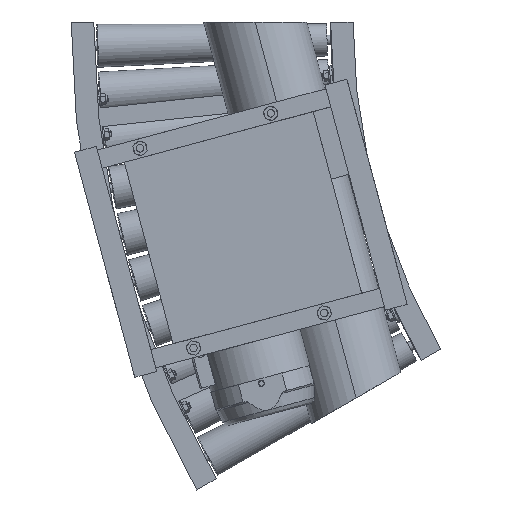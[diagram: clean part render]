
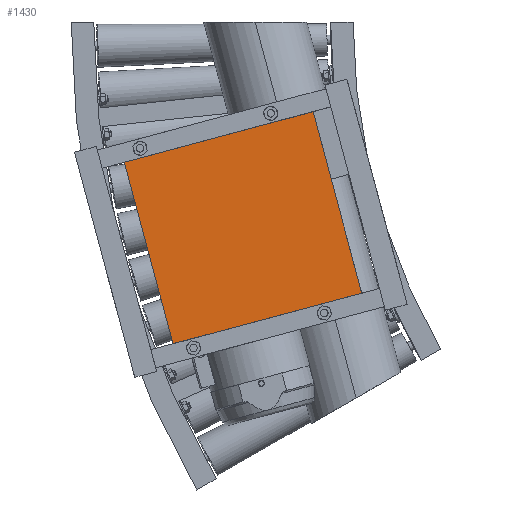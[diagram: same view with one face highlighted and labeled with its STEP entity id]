
A CAD part, front view. The second image highlights one B-rep face of the part: STEP entity #1430.
In plain terms, the highlighted planar face has unit normal (0, -1, 0).
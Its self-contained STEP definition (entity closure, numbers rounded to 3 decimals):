
#1430=ADVANCED_FACE('',(#6996),#6995,.T.);
#6995=PLANE('',#14169);
#6996=FACE_OUTER_BOUND('',#14170,.T.);
#14166=CARTESIAN_POINT('',(141.333,-304.8,-107.004));
#14167=DIRECTION('',(0.,-1.,0.));
#14168=DIRECTION('',(-0.966,0.,-0.259));
#14169=AXIS2_PLACEMENT_3D('',#14166,#14167,#14168);
#14170=EDGE_LOOP('',(#18909,#18910,#18911,#18912));
#18909=ORIENTED_EDGE('',*,*,#22116,.T.);
#18910=ORIENTED_EDGE('',*,*,#22186,.T.);
#18911=ORIENTED_EDGE('',*,*,#22140,.F.);
#18912=ORIENTED_EDGE('',*,*,#22185,.T.);
#22116=EDGE_CURVE('',#31700,#31693,#31701,.T.);
#22140=EDGE_CURVE('',#31852,#31831,#31859,.T.);
#22185=EDGE_CURVE('',#31852,#31700,#32162,.T.);
#22186=EDGE_CURVE('',#31693,#31831,#32168,.T.);
#31693=VERTEX_POINT('',#47242);
#31700=VERTEX_POINT('',#47246);
#31701=LINE('',#47247,#47248);
#31831=VERTEX_POINT('',#47319);
#31852=VERTEX_POINT('',#47331);
#31859=LINE('',#47335,#47336);
#32162=LINE('',#47517,#47518);
#32168=LINE('',#47520,#47521);
#47242=CARTESIAN_POINT('',(198.967,-304.8,-360.733));
#47246=CARTESIAN_POINT('',(-52.174,-304.8,-428.026));
#47247=CARTESIAN_POINT('',(-52.174,-304.8,-428.026));
#47248=VECTOR('',#47249,260.);
#47249=DIRECTION('',(0.966,0.,0.259));
#47319=CARTESIAN_POINT('',(134.262,-304.8,-119.251));
#47331=CARTESIAN_POINT('',(-116.878,-304.8,-186.544));
#47335=CARTESIAN_POINT('',(-116.878,-304.8,-186.544));
#47336=VECTOR('',#47337,260.);
#47337=DIRECTION('',(0.966,0.,0.259));
#47517=CARTESIAN_POINT('',(-116.878,-304.8,-186.544));
#47518=VECTOR('',#47519,250.);
#47519=DIRECTION('',(0.259,0.,-0.966));
#47520=CARTESIAN_POINT('',(198.967,-304.8,-360.733));
#47521=VECTOR('',#47522,250.);
#47522=DIRECTION('',(-0.259,0.,0.966));
